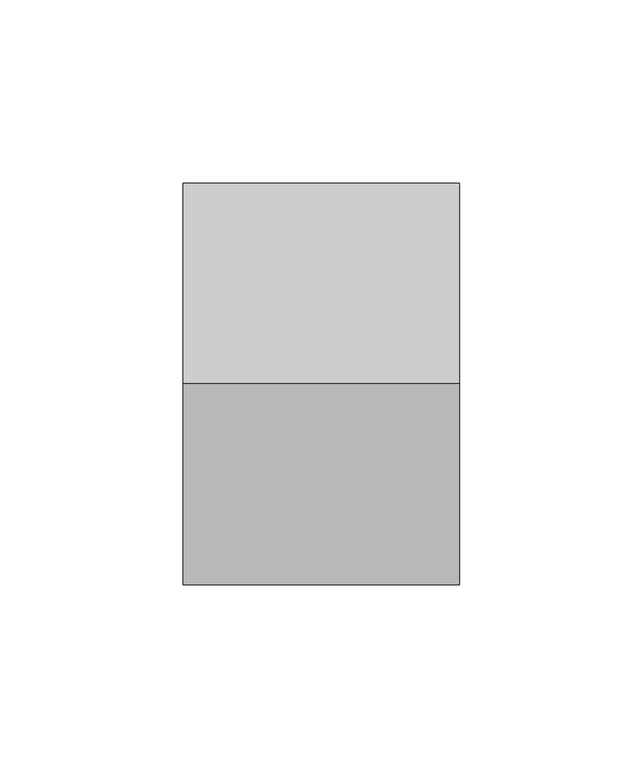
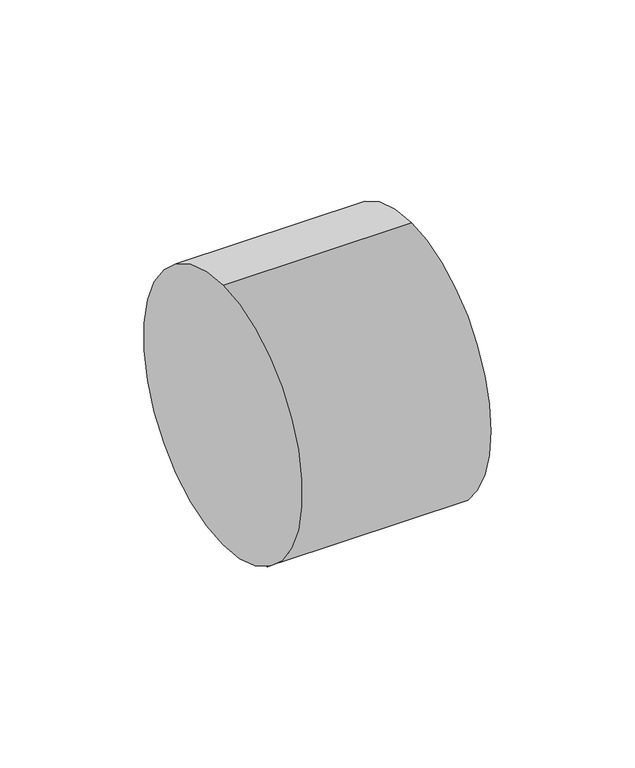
"""IFC4 building model written with IfcOpenShell, lengths in millimetres: pipe fitting geometry, Superdrain HTR-Reducer-short : Superdrain HTR-Reducer-short."""

from ifc_helpers import new_model, si_unit, point, frame, frame_2d, origin, place, context, project, spatial, polyline, circle_curve, trimmed, segment, composite_curve, outline, extrude, source, transform, mapped, element, save
from ifc_brep_helpers import plane_surface, cylinder_surface, revolved_surface, advanced_brep


def pipe_fitting_883b7029(model_context):
    return source(origin(), model_context, "Body", "SolidModel", [
        extrude(outline(composite_curve([segment(trimmed(circle_curve(frame_2d((0.0, 5.0)), 41.34375), [point((-41.34375, 5.0))], [point((41.34375, 5.0))], False, "CARTESIAN"), True, "CONTINUOUS"), segment(trimmed(circle_curve(frame_2d((0.0, 5.0)), 41.34375), [point((41.34375, 5.0))], [point((-41.34375, 5.0))], False, "CARTESIAN"), True, "CONTINUOUS")], self_intersect=False), holes=[composite_curve([segment(trimmed(circle_curve(frame_2d((0.0, 5.0)), 37.5), [point((37.5, 5.0))], [point((-37.5, 5.0))], True, "CARTESIAN"), True, "CONTINUOUS"), segment(trimmed(circle_curve(frame_2d((0.0, 5.0)), 37.5), [point((-37.5, 5.0))], [point((37.5, 5.0))], True, "CARTESIAN"), True, "CONTINUOUS")], self_intersect=False)]), frame((71.5, 0.0, 0.0), z_axis=(1.0, 0.0, 0.0), x_axis=(0.0, 1.0, 0.0)), (0.0, 0.0, 1.0), 10.6),
        extrude(outline(composite_curve([segment(trimmed(circle_curve(frame_2d((0.0, 5.0)), 39.375), [point((0.0, 44.375))], [point((0.0, -34.375))], False, "CARTESIAN"), True, "CONTINUOUS"), segment(trimmed(circle_curve(frame_2d((0.0, 5.0)), 39.375), [point((0.0, -34.375))], [point((0.0, 44.375))], False, "CARTESIAN"), True, "CONTINUOUS")], self_intersect=False), holes=[composite_curve([segment(trimmed(circle_curve(frame_2d((0.0, 5.0)), 37.5), [point((37.5, 5.0))], [point((-37.5, 5.0))], True, "CARTESIAN"), True, "CONTINUOUS"), segment(trimmed(circle_curve(frame_2d((0.0, 5.0)), 37.5), [point((-37.5, 5.0))], [point((37.5, 5.0))], True, "CARTESIAN"), True, "CONTINUOUS")], self_intersect=False)]), frame((29.1, 0.0, 0.0), z_axis=(1.0, 0.0, 0.0), x_axis=(0.0, 1.0, 0.0)), (0.0, 0.0, 1.0), 53.0),
        advanced_brep(
        [(6.5, 0.0, 55.0), (6.5, 0.0, -55.0), (82.1, 0.0, 55.0), (82.1, 0.0, -55.0), (82.1, -37.5, 5.0), (82.1, 37.5, 5.0), (29.1, 37.5, 5.0), (29.1, -37.5, 5.0)],
        [
            (0, 1, circle_curve(frame((6.5, 0.0, 0.0), z_axis=(-1.0, 0.0, 0.0), x_axis=(0.0, 0.0, -1.0)), 55.0)),
            (1, 0, circle_curve(frame((6.5, 0.0, 0.0), z_axis=(-1.0, 0.0, 0.0), x_axis=(0.0, 0.0, -1.0)), 55.0)),
            (2, 3, circle_curve(frame((82.1, 0.0, 0.0), z_axis=(1.0, 0.0, 0.0), x_axis=(0.0, 0.0, -1.0)), 55.0)),
            (3, 2, circle_curve(frame((82.1, 0.0, 0.0), z_axis=(1.0, 0.0, 0.0), x_axis=(0.0, 0.0, -1.0)), 55.0)),
            (4, 5, circle_curve(frame((82.1, 0.0, 5.0), z_axis=(-1.0, 0.0, 0.0), x_axis=(0.0, -1.0, 0.0)), 37.5)),
            (5, 4, circle_curve(frame((82.1, 0.0, 5.0), z_axis=(-1.0, 0.0, 0.0), x_axis=(0.0, -1.0, 0.0)), 37.5)),
            (0, 2),
            (3, 1),
            (6, 7, circle_curve(frame((29.1, 0.0, 5.0), z_axis=(1.0, 0.0, 0.0), x_axis=(0.0, -1.0, 0.0)), 37.5)),
            (7, 6, circle_curve(frame((29.1, 0.0, 5.0), z_axis=(1.0, 0.0, 0.0), x_axis=(0.0, -1.0, 0.0)), 37.5)),
            (6, 5),
            (4, 7),
        ],
        [
            plane_surface(frame((6.5, 0.0, 0.0), z_axis=(-1.0, 0.0, 0.0), x_axis=(0.0, 1.0, 0.0))),
            plane_surface(frame((82.1, 0.0, 0.0), z_axis=(1.0, 0.0, 0.0), x_axis=(0.0, 1.0, 0.0))),
            cylinder_surface(frame((6.5, 0.0, 0.0), z_axis=(-1.0, 0.0, 0.0), x_axis=(0.0, 0.0, -1.0)), 55.0),
            plane_surface(frame((29.1, 0.0, 0.0), z_axis=(1.0, 0.0, 0.0), x_axis=(0.0, 0.0, 1.0))),
            revolved_surface(polyline([(82.1, -37.5, 5.0), (29.1, -37.5, 5.0)]), (82.1, 0.0, 5.0), (1.0, 0.0, 0.0)),
        ],
        [
            (0, [[1, 2]]),
            (1, [[3, 4], [5, 6]]),
            (2, [[-1, 7, -4, 8]]),
            (2, [[-2, -8, -3, -7]]),
            (3, [[9, 10]]),
            (4, [[-9, 11, -5, 12]]),
            (4, [[-10, -12, -6, -11]]),
        ],
    ),
    ])


if __name__ == "__main__":
    model = new_model("IFC4")
    model_context = context("Model", 3, world=origin())
    ifc_project = project(units=[si_unit("LENGTHUNIT", "METRE", prefix="MILLI")], contexts=[model_context])
    site = spatial("IfcSite", under=ifc_project)
    building = spatial("IfcBuilding", under=site)
    placement = place(None, origin())
    pipe_fitting_shape = pipe_fitting_883b7029(model_context)
    element("IfcPipeFitting", 1, ObjectType="Superdrain HTR-Reducer-short : Superdrain HTR-Reducer-short", at=placement, inside=building, context=model_context, shape_type="MappedRepresentation", body=[
        mapped(pipe_fitting_shape, transform((0.0, 0.0, 0.0), x_axis=(1.0, 0.0, 0.0), y_axis=(0.0, 1.0, 0.0), z_axis=(0.0, 0.0, 1.0))),
    ])
    save(model, "model.ifc")
